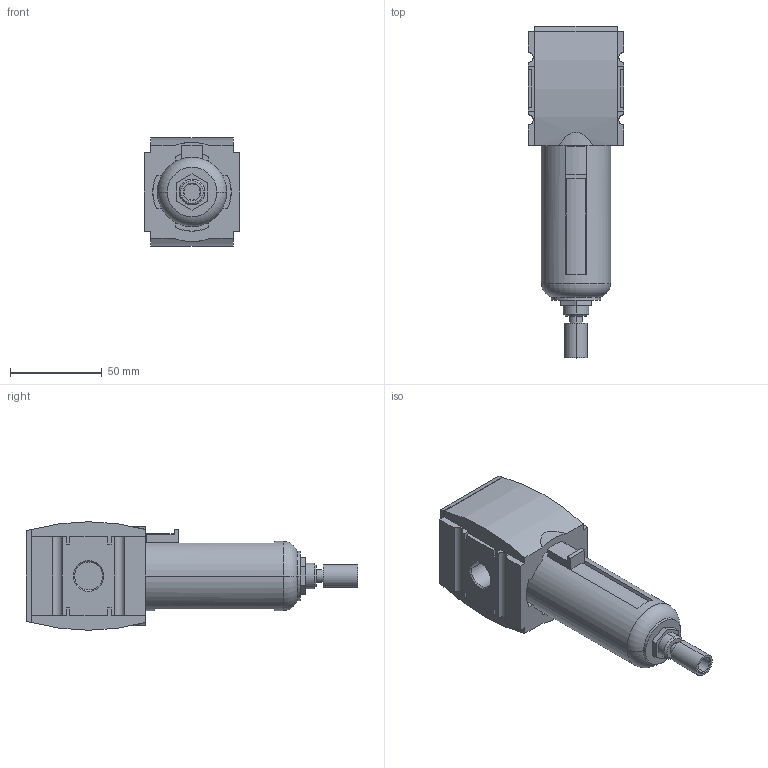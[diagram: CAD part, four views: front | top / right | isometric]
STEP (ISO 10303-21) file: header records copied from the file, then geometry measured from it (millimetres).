
FILE_DESCRIPTION((''),'2;1');
FILE_NAME('R412006011_ASM','2019-08-08T',('hug2hc'),(''),'CREO PARAMETRIC BY PTC INC, 2016260','CREO PARAMETRIC BY PTC INC, 2016260','');
FILE_SCHEMA(('CONFIG_CONTROL_DESIGN'));
Length unit declared in the file: millimetre
Products named in the file (3): R412006011; AS2_RES_FILTER_FULLY; R412006011_ASM
Assembly tree (2 placements, depth 2):
  R412006011_ASM
    R412006011
    AS2_RES_FILTER_FULLY
Bounding box: 52 x 180.5 x 59 mm (x, y, z)
Volume: 262441.6 mm3; surface area: 43003.6 mm2
Topology: 2 solids, 2 shells, 168 faces, 432 edges, 284 vertices
Faces by surface type: plane 117, cylinder 41, cone 8, torus 2
Entity records: 5265 total; most frequent: CARTESIAN_POINT 963, DIRECTION 890, ORIENTED_EDGE 864, EDGE_CURVE 432, VECTOR 316, LINE 316, AXIS2_PLACEMENT_3D 287, VERTEX_POINT 284
